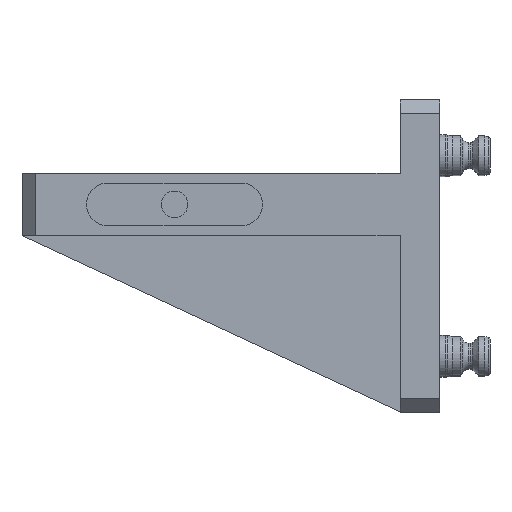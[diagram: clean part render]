
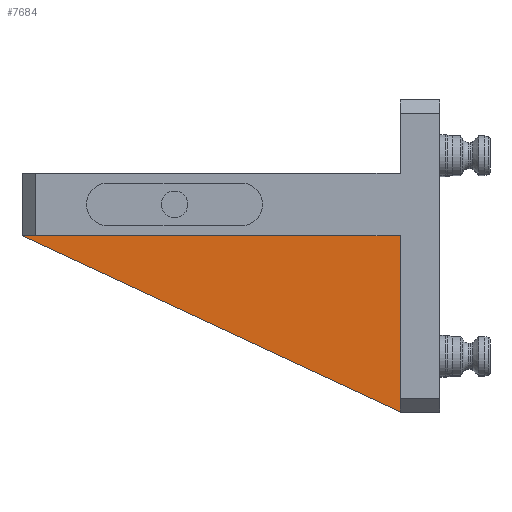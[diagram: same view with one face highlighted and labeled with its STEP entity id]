
A CAD part, left-side view. The second image highlights one B-rep face of the part: STEP entity #7684.
In plain terms, the highlighted planar face has unit normal (-1, 0, 0).
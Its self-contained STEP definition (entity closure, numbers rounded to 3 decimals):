
#67 = VERTEX_POINT ( 'NONE', #4526 ) ;
#375 = EDGE_CURVE ( 'NONE', #6170, #67, #6655, .T. ) ;
#834 = DIRECTION ( 'NONE',  ( 0., 1., 0. ) ) ;
#2256 = PLANE ( 'NONE',  #3767 ) ;
#2443 = EDGE_CURVE ( 'NONE', #67, #4407, #5568, .T. ) ;
#2878 = ORIENTED_EDGE ( 'NONE', *, *, #2443, .F. ) ;
#3767 = AXIS2_PLACEMENT_3D ( 'NONE', #7326, #6663, #834 ) ;
#3799 = FACE_OUTER_BOUND ( 'NONE', #5303, .T. ) ;
#4407 = VERTEX_POINT ( 'NONE', #5734 ) ;
#4526 = CARTESIAN_POINT ( 'NONE',  ( -60.855, 19.05, -114.378 ) ) ;
#4792 = DIRECTION ( 'NONE',  ( 0., 0.906, 0.423 ) ) ;
#4955 = CARTESIAN_POINT ( 'NONE',  ( -60.855, 19.05, -30. ) ) ;
#5303 = EDGE_LOOP ( 'NONE', ( #6031, #7245, #2878 ) ) ;
#5568 = LINE ( 'NONE', #7986, #6946 ) ;
#5640 = LINE ( 'NONE', #5924, #8047 ) ;
#5734 = CARTESIAN_POINT ( 'NONE',  ( -60.855, 200., -30. ) ) ;
#5924 = CARTESIAN_POINT ( 'NONE',  ( -60.855, 19.05, -30. ) ) ;
#5952 = VECTOR ( 'NONE', #6228, 1000. ) ;
#6031 = ORIENTED_EDGE ( 'NONE', *, *, #375, .F. ) ;
#6170 = VERTEX_POINT ( 'NONE', #4955 ) ;
#6228 = DIRECTION ( 'NONE',  ( 0., 0., -1. ) ) ;
#6354 = EDGE_CURVE ( 'NONE', #4407, #6170, #5640, .T. ) ;
#6653 = DIRECTION ( 'NONE',  ( 0., -1., 0. ) ) ;
#6655 = LINE ( 'NONE', #6800, #5952 ) ;
#6663 = DIRECTION ( 'NONE',  ( 1., 0., 0. ) ) ;
#6800 = CARTESIAN_POINT ( 'NONE',  ( -60.855, 19.05, -30. ) ) ;
#6946 = VECTOR ( 'NONE', #4792, 1000. ) ;
#7245 = ORIENTED_EDGE ( 'NONE', *, *, #6354, .F. ) ;
#7326 = CARTESIAN_POINT ( 'NONE',  ( -60.855, 19.05, -30. ) ) ;
#7684 = ADVANCED_FACE ( 'NONE', ( #3799 ), #2256, .F. ) ;
#7986 = CARTESIAN_POINT ( 'NONE',  ( -60.855, 19.05, -114.378 ) ) ;
#8047 = VECTOR ( 'NONE', #6653, 1000. ) ;
